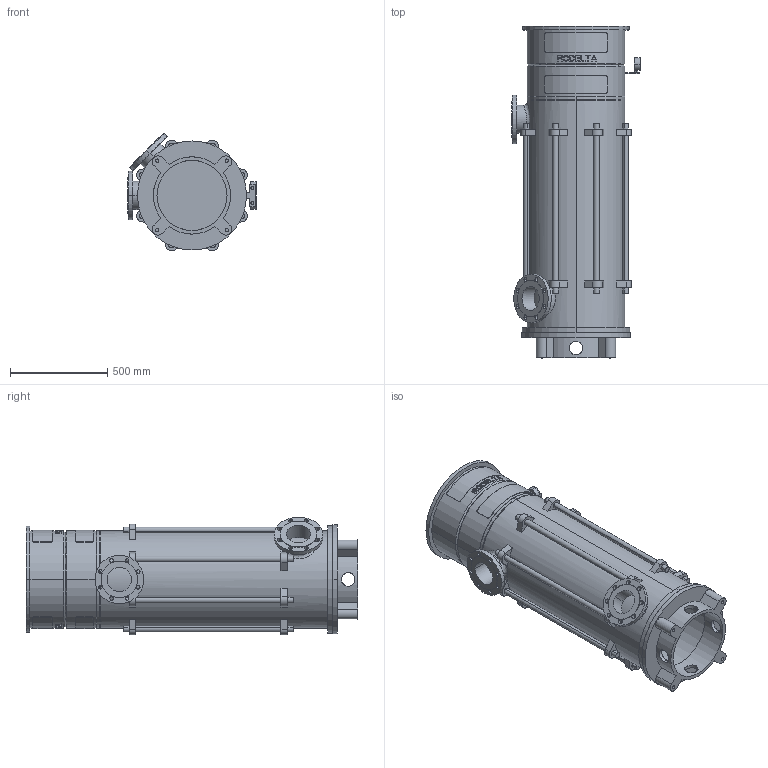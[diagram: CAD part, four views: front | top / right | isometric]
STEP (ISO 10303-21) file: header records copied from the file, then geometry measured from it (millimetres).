
FILE_DESCRIPTION((''),'2;1');
FILE_NAME('LS5_7TR_0GR_ABOVE_30KW','2023-08-07T',('Lyritlocal'),(''),'PRO/ENGINEER BY PARAMETRIC TECHNOLOGY CORPORATION, 2016360','PRO/ENGINEER BY PARAMETRIC TECHNOLOGY CORPORATION, 2016360','');
FILE_SCHEMA(('CONFIG_CONTROL_DESIGN'));
Length unit declared in the file: millimetre
Products named in the file (1): LS5_7TR_0GR_ABOVE_30KW
Bounding box: 660 x 1704 x 603.65 mm (x, y, z)
Volume: 49377435 mm3; surface area: 7401586.7 mm2
Topology: 3 solids, 7 shells, 672 faces, 1747 edges, 1158 vertices
Faces by surface type: plane 414, cylinder 242, cone 12, bspline 4
Entity records: 21876 total; most frequent: CARTESIAN_POINT 5432, ORIENTED_EDGE 3478, DIRECTION 3269, EDGE_CURVE 1747, AXIS2_PLACEMENT_3D 1241, VERTEX_POINT 1158, EDGE_LOOP 809, VECTOR 787
